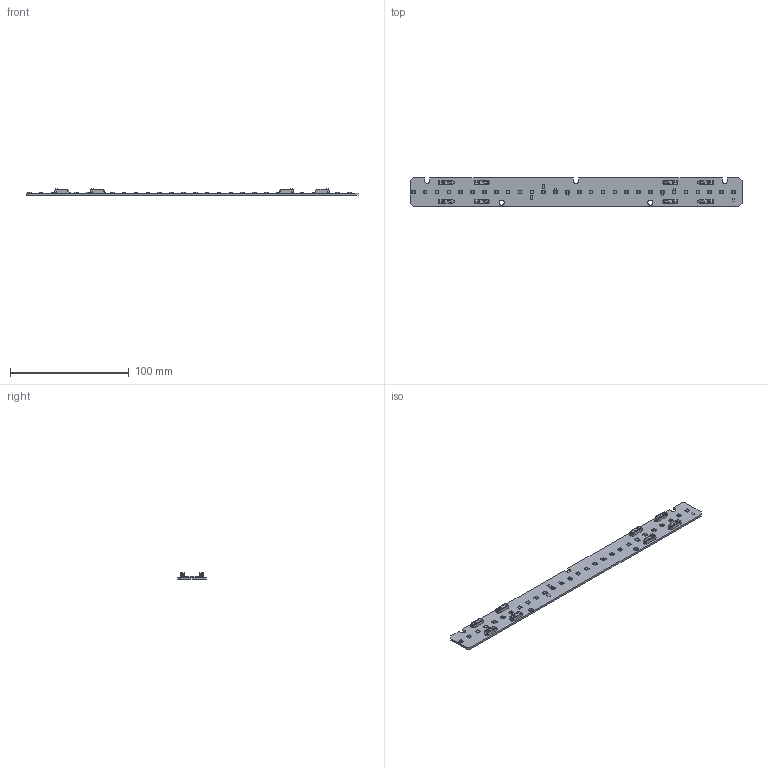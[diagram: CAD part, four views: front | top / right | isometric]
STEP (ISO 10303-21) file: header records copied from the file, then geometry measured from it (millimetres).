
FILE_DESCRIPTION((''),'2;1');
FILE_NAME('16207824_LLE-G2-TW-24X280-700','2017-09-19T',('bernhard.fink'),(''),'PRO/ENGINEER BY PARAMETRIC TECHNOLOGY CORPORATION, 2015200','PRO/ENGINEER BY PARAMETRIC TECHNOLOGY CORPORATION, 2015200','');
FILE_SCHEMA(('AUTOMOTIVE_DESIGN { 1 0 10303 214 1 1 1 1 }'));
Products named in the file (1): 16207824_LLE-G2-TW-24X280-700
Bounding box: 279 x 23.6 x 5.1 mm (x, y, z)
Surface area: 15888.5 mm2 (no closed solid volume)
Topology: 0 solids, 1 shells, 2909 faces, 7443 edges, 4523 vertices
Faces by surface type: plane 1202, cylinder 889, bspline 472, sphere 160, cone 136, torus 50
Entity records: 147638 total; most frequent: CARTESIAN_POINT 39234, ORIENTED_EDGE 14598, DIRECTION 12108, PRESENTATION_STYLE_ASSIGNMENT 10217, STYLED_ITEM 7300, CURVE_STYLE 7299, EDGE_CURVE 7299, VERTEX_POINT 4523
